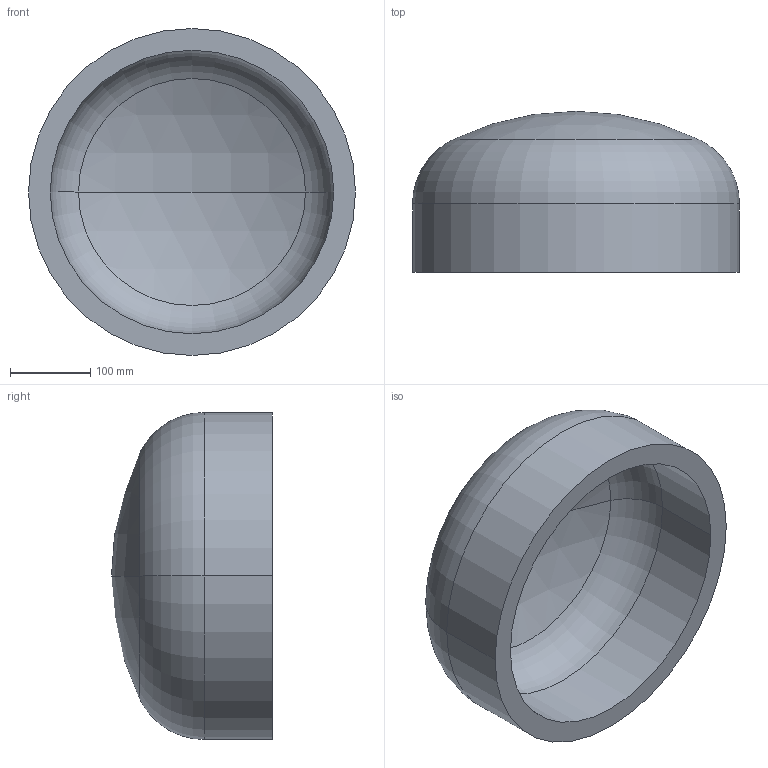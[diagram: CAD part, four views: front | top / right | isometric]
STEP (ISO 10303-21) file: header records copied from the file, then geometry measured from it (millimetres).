
FILE_DESCRIPTION (( 'STEP AP203' ), '1' );
FILE_NAME ('DIN 28013 Korbbogenform_-_Boden DIN 28013 - 406,4 x 85 - I - s=27.step', '2016-07-01T07:49:59', ( '' ), ( '' ), 'SwSTEP 2.0', 'SolidWorks 2013', '' );
FILE_SCHEMA (( 'CONFIG_CONTROL_DESIGN' ));
Length unit declared in the file: millimetre
Products named in the file (1): DIN 28013 Korbbogenform_-_Boden DIN 28013 - 406,4 x 85 - I - s=27
Bounding box: 406.4 x 200.09 x 406.4 mm (x, y, z)
Volume: 7185630.9 mm3; surface area: 565977.5 mm2
Topology: 1 solids, 1 shells, 13 faces, 24 edges, 14 vertices
Faces by surface type: torus 4, cylinder 4, sphere 4, plane 1
Entity records: 407 total; most frequent: DIRECTION 72, CARTESIAN_POINT 52, ORIENTED_EDGE 48, AXIS2_PLACEMENT_3D 34, EDGE_CURVE 24, CIRCLE 20, VERTEX_POINT 14, EDGE_LOOP 14
